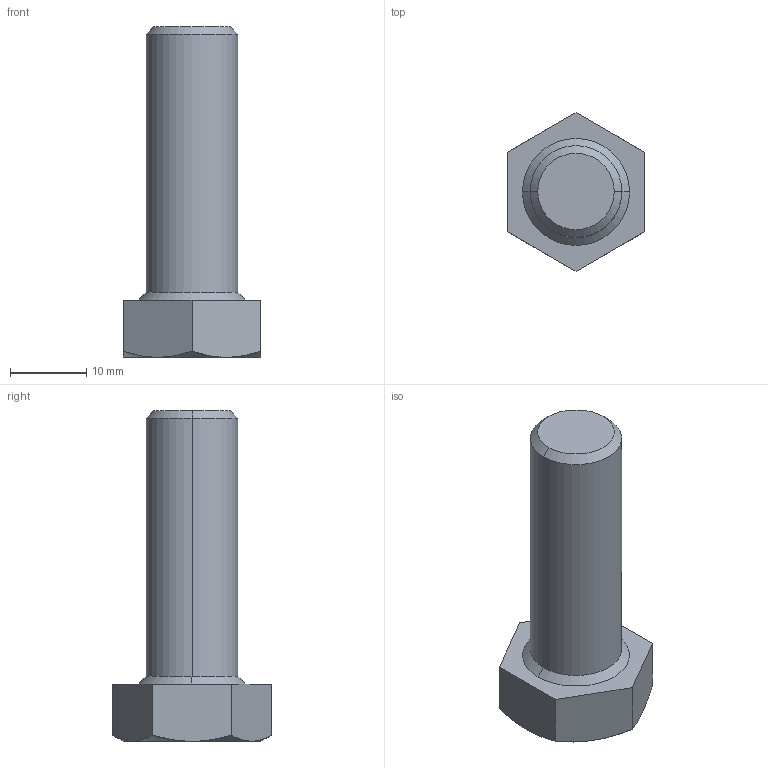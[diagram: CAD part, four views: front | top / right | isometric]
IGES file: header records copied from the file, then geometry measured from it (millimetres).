
Start section: START RECORD GO HERE.
Global section: file name: VisH123.igs; native system: IBM CATIA IGES - CATIA Version 5 Release 18 ; preprocessor: CATIA Version 5 Release 18 ; author: Propriétaire; organization: FUJITSU-79916BB; date: 20090111.192200; units: millimetre
Bounding box: 18 x 20.78 x 43.3 mm (x, y, z)
Surface area: 2321 mm2 (no closed solid volume)
Topology: 0 solids, 0 shells, 21 faces, 88 edges, 88 vertices
Faces by surface type: revolution 12, plane 9
